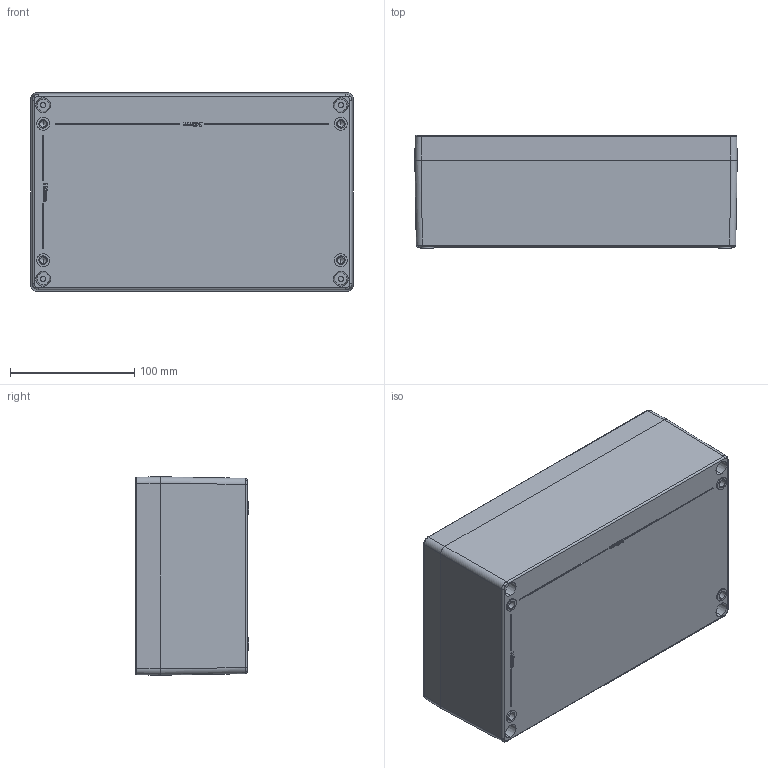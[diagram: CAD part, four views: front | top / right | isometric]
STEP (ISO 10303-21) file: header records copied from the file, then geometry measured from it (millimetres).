
FILE_DESCRIPTION (( 'STEP AP214' ), '1' );
FILE_NAME ('Zag 12.STEP', '2016-05-03T08:34:40', ( '' ), ( '' ), 'SwSTEP 2.0', 'SolidWorks 2015', '' );
FILE_SCHEMA (( 'AUTOMOTIVE_DESIGN' ));
Length unit declared in the file: millimetre
Products named in the file (5): Zag 12; slotted cheese head screw_bsi_ISO 1207 - M6 x 25 --- 25N; Zag12 Gasket; Zag 12 Lid; Zag 12 Body
Assembly tree (7 placements, depth 2):
  Zag 12
    Zag 12 Body
    Zag 12 Lid
    Zag12 Gasket
    slotted cheese head screw_bsi_ISO 1207 - M6 x 25 --- 25N  x4
Bounding box: 260 x 91.2 x 160 mm (x, y, z)
Volume: 831940.9 mm3; surface area: 336510.3 mm2
Topology: 11 solids, 11 shells, 725 faces, 1874 edges, 1205 vertices
Faces by surface type: plane 316, cylinder 174, bspline 169, cone 56, torus 10
Entity records: 29491 total; most frequent: CARTESIAN_POINT 13282, ORIENTED_EDGE 3524, DIRECTION 2780, EDGE_CURVE 1762, VERTEX_POINT 1145, VECTOR 1052, LINE 1052, AXIS2_PLACEMENT_3D 864
